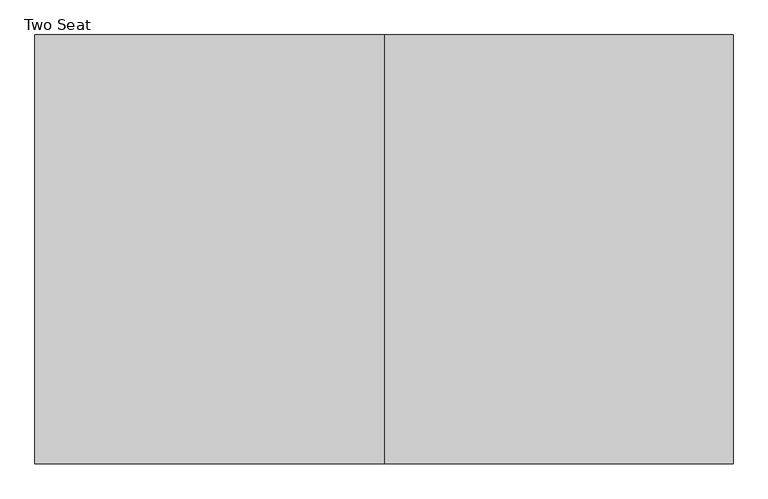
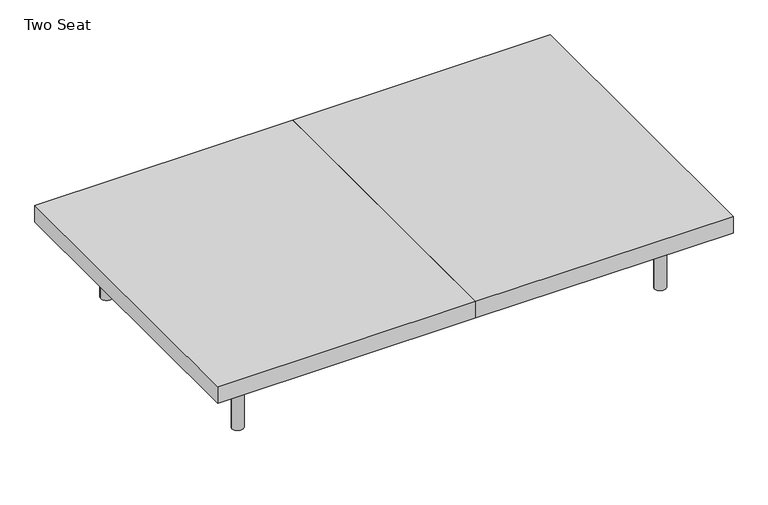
"""IFC4 building model written with IfcOpenShell, lengths in millimetres: furniture geometry, Coalesse_AM_Seating_LoungeChair_Sistema_LegBase_TwoSeat : Two Seat."""

from ifc_helpers import new_model, si_unit, point, frame, frame_2d, origin, origin_with_axes, place, context, project, spatial, polyline, circle_curve, trimmed, segment, composite_curve, outline, extrude, source, transform, mapped, element, save


def two_seat_d71338f1(model_context):
    return source(origin(), model_context, "Body", "SweptSolid", [
        extrude(outline(composite_curve([segment(trimmed(circle_curve(frame_2d((989.1765227, 335.9943389)), 6.096), [point((995.2725227, 335.9943389))], [point((983.0805227, 335.9943389))], False, "CARTESIAN"), True, "CONTINUOUS"), segment(trimmed(circle_curve(frame_2d((989.1765227, 335.9943389)), 6.096), [point((983.0805227, 335.9943389))], [point((995.2725227, 335.9943389))], False, "CARTESIAN"), True, "CONTINUOUS")], self_intersect=False)), origin_with_axes(), (0.0, 0.0, 1.0), 4.3662291),
        extrude(outline(composite_curve([segment(trimmed(circle_curve(frame_2d((989.1765227, -327.2630889)), 6.096), [point((995.2725227, -327.2630889))], [point((983.0805227, -327.2630889))], False, "CARTESIAN"), True, "CONTINUOUS"), segment(trimmed(circle_curve(frame_2d((989.1765227, -327.2630889)), 6.096), [point((983.0805227, -327.2630889))], [point((995.2725227, -327.2630889))], False, "CARTESIAN"), True, "CONTINUOUS")], self_intersect=False)), origin_with_axes(), (0.0, 0.0, 1.0), 4.3662291),
        extrude(outline(composite_curve([segment(polyline([(157.0399209, 1001.756375), (201.7356243, 1001.756375)]), True, "CONTINUOUS"), segment(trimmed(circle_curve(frame_2d((201.7356243, 998.708375)), 3.048), [point((201.7356243, 1001.756375))], [point((204.7836243, 998.708375))], False, "CARTESIAN"), True, "CONTINUOUS"), segment(polyline([(204.7836243, 998.708375), (204.7836243, 979.366199)]), True, "CONTINUOUS"), segment(trimmed(circle_curve(frame_2d((201.7356243, 979.366199)), 3.048), [point((204.7836243, 979.366199))], [point((201.7356243, 976.318199))], False, "CARTESIAN"), True, "CONTINUOUS"), segment(polyline([(201.7356243, 976.318199), (157.1249936, 976.318199)]), True, "CONTINUOUS"), segment(trimmed(circle_curve(frame_2d((157.1249936, 979.4512718)), 3.1330728), [point((157.1249936, 976.318199))], [point((153.9919209, 979.4512718))], False, "CARTESIAN"), True, "CONTINUOUS"), segment(polyline([(153.9919209, 979.4512718), (153.9919209, 998.708375)]), True, "CONTINUOUS"), segment(trimmed(circle_curve(frame_2d((157.0399209, 998.708375)), 3.048), [point((153.9919209, 998.708375))], [point((157.0399209, 1001.756375))], False, "CARTESIAN"), True, "CONTINUOUS")], self_intersect=False)), frame((0.0, 222.3519802, 0.0), z_axis=(0.0, 1.0, 0.0), x_axis=(0.0, 0.0, 1.0)), (0.0, 0.0, 1.0), 92.6273161),
        extrude(outline(composite_curve([segment(polyline([(157.0399209, 1001.756375), (201.7356243, 1001.756375)]), True, "CONTINUOUS"), segment(trimmed(circle_curve(frame_2d((201.7356243, 998.708375)), 3.048), [point((201.7356243, 1001.756375))], [point((204.7836243, 998.708375))], False, "CARTESIAN"), True, "CONTINUOUS"), segment(polyline([(204.7836243, 998.708375), (204.7836243, 979.366199)]), True, "CONTINUOUS"), segment(trimmed(circle_curve(frame_2d((201.7356243, 979.366199)), 3.048), [point((204.7836243, 979.366199))], [point((201.7356243, 976.318199))], False, "CARTESIAN"), True, "CONTINUOUS"), segment(polyline([(201.7356243, 976.318199), (157.1249936, 976.318199)]), True, "CONTINUOUS"), segment(trimmed(circle_curve(frame_2d((157.1249936, 979.4512718)), 3.1330728), [point((157.1249936, 976.318199))], [point((153.9919209, 979.4512718))], False, "CARTESIAN"), True, "CONTINUOUS"), segment(polyline([(153.9919209, 979.4512718), (153.9919209, 998.708375)]), True, "CONTINUOUS"), segment(trimmed(circle_curve(frame_2d((157.0399209, 998.708375)), 3.048), [point((153.9919209, 998.708375))], [point((157.0399209, 1001.756375))], False, "CARTESIAN"), True, "CONTINUOUS")], self_intersect=False)), frame((0.0, -314.9792963, 0.0), z_axis=(0.0, 1.0, 0.0), x_axis=(0.0, 0.0, 1.0)), (0.0, 0.0, 1.0), 92.6273161),
        extrude(outline(composite_curve([segment(trimmed(circle_curve(frame_2d((176.3356606, 966.5259944)), 3.048), [point((179.3836606, 966.5259944))], [point((176.3356606, 963.4779944))], False, "CARTESIAN"), True, "CONTINUOUS"), segment(polyline([(176.3356606, 963.4779944), (157.0399209, 963.4779944)]), True, "CONTINUOUS"), segment(trimmed(circle_curve(frame_2d((157.0399209, 966.5259944)), 3.048), [point((157.0399209, 963.4779944))], [point((153.9919209, 966.5259944))], False, "CARTESIAN"), True, "CONTINUOUS"), segment(polyline([(153.9919209, 966.5259944), (153.9919209, 1011.2135501)]), True, "CONTINUOUS"), segment(trimmed(circle_curve(frame_2d((157.056462, 1011.2135501)), 3.0645412), [point((153.9919209, 1011.2135501))], [point((157.056462, 1014.2780913))], False, "CARTESIAN"), True, "CONTINUOUS"), segment(polyline([(157.056462, 1014.2780913), (176.3356606, 1014.2780913)]), True, "CONTINUOUS"), segment(trimmed(circle_curve(frame_2d((176.3356606, 1011.2300913)), 3.048), [point((176.3356606, 1014.2780913))], [point((179.3836606, 1011.2300913))], False, "CARTESIAN"), True, "CONTINUOUS"), segment(polyline([(179.3836606, 1011.2300913), (179.3836606, 966.5259944)]), True, "CONTINUOUS")], self_intersect=False)), frame((0.0, -222.3519802, 0.0), z_axis=(0.0, 1.0, 0.0), x_axis=(0.0, 0.0, 1.0)), (0.0, 0.0, 1.0), 444.7039604),
        extrude(outline(composite_curve([segment(trimmed(circle_curve(frame_2d((989.1765227, 332.3095741)), 16.51), [point((1005.6865227, 332.3095741))], [point((972.6665227, 332.3095741))], False, "CARTESIAN"), True, "CONTINUOUS"), segment(trimmed(circle_curve(frame_2d((989.1765227, 332.3095741)), 16.51), [point((972.6665227, 332.3095741))], [point((1005.6865227, 332.3095741))], False, "CARTESIAN"), True, "CONTINUOUS")], self_intersect=False)), frame((0.0, 0.0, 4.3662291), z_axis=(0.0, 0.0, 1.0), x_axis=(1.0, 0.0, 0.0)), (0.0, 0.0, 1.0), 200.1037709),
        extrude(outline(composite_curve([segment(trimmed(circle_curve(frame_2d((988.7796477, -327.5470741)), 16.51), [point((1005.2896477, -327.5470741))], [point((972.2696477, -327.5470741))], False, "CARTESIAN"), True, "CONTINUOUS"), segment(trimmed(circle_curve(frame_2d((988.7796477, -327.5470741)), 16.51), [point((972.2696477, -327.5470741))], [point((1005.2896477, -327.5470741))], False, "CARTESIAN"), True, "CONTINUOUS")], self_intersect=False)), frame((0.0, 0.0, 4.3662291), z_axis=(0.0, 0.0, 1.0), x_axis=(1.0, 0.0, 0.0)), (0.0, 0.0, 1.0), 200.1037709),
        extrude(outline(polyline([(374.4965227, 459.4795619), (374.4965227, -461.2704381), (-374.8034773, -461.2704381), (-374.8034773, 459.4795619), (374.4965227, 459.4795619)])), frame((0.0, 0.0, 204.47), z_axis=(0.0, 0.0, 1.0), x_axis=(1.0, 0.0, 0.0)), (0.0, 0.0, 1.0), 51.0294654),
        extrude(outline(polyline([(1123.7965227, 459.4795619), (1123.7965227, -461.2704381), (374.4965227, -461.2704381), (374.4965227, 459.4795619), (1123.7965227, 459.4795619)])), frame((0.0, 0.0, 204.47), z_axis=(0.0, 0.0, 1.0), x_axis=(1.0, 0.0, 0.0)), (0.0, 0.0, 1.0), 51.0294654),
        extrude(outline(composite_curve([segment(trimmed(circle_curve(frame_2d((-240.1834773, 335.9943389)), 6.096), [point((-246.2794773, 335.9943389))], [point((-234.0874773, 335.9943389))], False, "CARTESIAN"), True, "CONTINUOUS"), segment(trimmed(circle_curve(frame_2d((-240.1834773, 335.9943389)), 6.096), [point((-234.0874773, 335.9943389))], [point((-246.2794773, 335.9943389))], False, "CARTESIAN"), True, "CONTINUOUS")], self_intersect=False)), origin_with_axes(), (0.0, 0.0, 1.0), 4.3662291),
        extrude(outline(composite_curve([segment(trimmed(circle_curve(frame_2d((-240.1834773, -327.2630889)), 6.096), [point((-246.2794773, -327.2630889))], [point((-234.0874773, -327.2630889))], False, "CARTESIAN"), True, "CONTINUOUS"), segment(trimmed(circle_curve(frame_2d((-240.1834773, -327.2630889)), 6.096), [point((-234.0874773, -327.2630889))], [point((-246.2794773, -327.2630889))], False, "CARTESIAN"), True, "CONTINUOUS")], self_intersect=False)), origin_with_axes(), (0.0, 0.0, 1.0), 4.3662291),
        extrude(outline(composite_curve([segment(trimmed(circle_curve(frame_2d((157.0399209, -249.7153296)), 3.048), [point((157.0399209, -252.7633296))], [point((153.9919209, -249.7153296))], False, "CARTESIAN"), True, "CONTINUOUS"), segment(polyline([(153.9919209, -249.7153296), (153.9919209, -230.4582264)]), True, "CONTINUOUS"), segment(trimmed(circle_curve(frame_2d((157.1249936, -230.4582264)), 3.1330728), [point((153.9919209, -230.4582264))], [point((157.1249936, -227.3251537))], False, "CARTESIAN"), True, "CONTINUOUS"), segment(polyline([(157.1249936, -227.3251537), (201.7356243, -227.3251537)]), True, "CONTINUOUS"), segment(trimmed(circle_curve(frame_2d((201.7356243, -230.3731537)), 3.048), [point((201.7356243, -227.3251537))], [point((204.7836243, -230.3731537))], False, "CARTESIAN"), True, "CONTINUOUS"), segment(polyline([(204.7836243, -230.3731537), (204.7836243, -249.7153296)]), True, "CONTINUOUS"), segment(trimmed(circle_curve(frame_2d((201.7356243, -249.7153296)), 3.048), [point((204.7836243, -249.7153296))], [point((201.7356243, -252.7633296))], False, "CARTESIAN"), True, "CONTINUOUS"), segment(polyline([(201.7356243, -252.7633296), (157.0399209, -252.7633296)]), True, "CONTINUOUS")], self_intersect=False)), frame((0.0, 222.3519802, 0.0), z_axis=(0.0, 1.0, 0.0), x_axis=(0.0, 0.0, 1.0)), (0.0, 0.0, 1.0), 92.6273161),
        extrude(outline(composite_curve([segment(trimmed(circle_curve(frame_2d((157.0399209, -249.7153296)), 3.048), [point((157.0399209, -252.7633296))], [point((153.9919209, -249.7153296))], False, "CARTESIAN"), True, "CONTINUOUS"), segment(polyline([(153.9919209, -249.7153296), (153.9919209, -230.4582264)]), True, "CONTINUOUS"), segment(trimmed(circle_curve(frame_2d((157.1249936, -230.4582264)), 3.1330728), [point((153.9919209, -230.4582264))], [point((157.1249936, -227.3251537))], False, "CARTESIAN"), True, "CONTINUOUS"), segment(polyline([(157.1249936, -227.3251537), (201.7356243, -227.3251537)]), True, "CONTINUOUS"), segment(trimmed(circle_curve(frame_2d((201.7356243, -230.3731537)), 3.048), [point((201.7356243, -227.3251537))], [point((204.7836243, -230.3731537))], False, "CARTESIAN"), True, "CONTINUOUS"), segment(polyline([(204.7836243, -230.3731537), (204.7836243, -249.7153296)]), True, "CONTINUOUS"), segment(trimmed(circle_curve(frame_2d((201.7356243, -249.7153296)), 3.048), [point((204.7836243, -249.7153296))], [point((201.7356243, -252.7633296))], False, "CARTESIAN"), True, "CONTINUOUS"), segment(polyline([(201.7356243, -252.7633296), (157.0399209, -252.7633296)]), True, "CONTINUOUS")], self_intersect=False)), frame((0.0, -314.9792963, 0.0), z_axis=(0.0, 1.0, 0.0), x_axis=(0.0, 0.0, 1.0)), (0.0, 0.0, 1.0), 92.6273161),
        extrude(outline(composite_curve([segment(polyline([(179.3836606, -217.532949), (179.3836606, -262.2370459)]), True, "CONTINUOUS"), segment(trimmed(circle_curve(frame_2d((176.3356606, -262.2370459)), 3.048), [point((179.3836606, -262.2370459))], [point((176.3356606, -265.2850459))], False, "CARTESIAN"), True, "CONTINUOUS"), segment(polyline([(176.3356606, -265.2850459), (157.056462, -265.2850459)]), True, "CONTINUOUS"), segment(trimmed(circle_curve(frame_2d((157.056462, -262.2205047)), 3.0645412), [point((157.056462, -265.2850459))], [point((153.9919209, -262.2205047))], False, "CARTESIAN"), True, "CONTINUOUS"), segment(polyline([(153.9919209, -262.2205047), (153.9919209, -217.532949)]), True, "CONTINUOUS"), segment(trimmed(circle_curve(frame_2d((157.0399209, -217.532949)), 3.048), [point((153.9919209, -217.532949))], [point((157.0399209, -214.484949))], False, "CARTESIAN"), True, "CONTINUOUS"), segment(polyline([(157.0399209, -214.484949), (176.3356606, -214.484949)]), True, "CONTINUOUS"), segment(trimmed(circle_curve(frame_2d((176.3356606, -217.532949)), 3.048), [point((176.3356606, -214.484949))], [point((179.3836606, -217.532949))], False, "CARTESIAN"), True, "CONTINUOUS")], self_intersect=False)), frame((0.0, -222.3519802, 0.0), z_axis=(0.0, 1.0, 0.0), x_axis=(0.0, 0.0, 1.0)), (0.0, 0.0, 1.0), 444.7039604),
        extrude(outline(composite_curve([segment(trimmed(circle_curve(frame_2d((-240.1834773, 332.3095741)), 16.51), [point((-256.6934773, 332.3095741))], [point((-223.6734773, 332.3095741))], False, "CARTESIAN"), True, "CONTINUOUS"), segment(trimmed(circle_curve(frame_2d((-240.1834773, 332.3095741)), 16.51), [point((-223.6734773, 332.3095741))], [point((-256.6934773, 332.3095741))], False, "CARTESIAN"), True, "CONTINUOUS")], self_intersect=False)), frame((0.0, 0.0, 4.3662291), z_axis=(0.0, 0.0, 1.0), x_axis=(1.0, 0.0, 0.0)), (0.0, 0.0, 1.0), 200.1037709),
        extrude(outline(composite_curve([segment(trimmed(circle_curve(frame_2d((-239.7866023, -327.5470741)), 16.51), [point((-256.2966023, -327.5470741))], [point((-223.2766023, -327.5470741))], False, "CARTESIAN"), True, "CONTINUOUS"), segment(trimmed(circle_curve(frame_2d((-239.7866023, -327.5470741)), 16.51), [point((-223.2766023, -327.5470741))], [point((-256.2966023, -327.5470741))], False, "CARTESIAN"), True, "CONTINUOUS")], self_intersect=False)), frame((0.0, 0.0, 4.3662291), z_axis=(0.0, 0.0, 1.0), x_axis=(1.0, 0.0, 0.0)), (0.0, 0.0, 1.0), 200.1037709),
    ])


if __name__ == "__main__":
    model = new_model("IFC4")
    model_context = context("Model", 3, world=origin())
    ifc_project = project(units=[si_unit("LENGTHUNIT", "METRE", prefix="MILLI")], contexts=[model_context])
    site = spatial("IfcSite", under=ifc_project)
    building = spatial("IfcBuilding", under=site)
    placement = place(None, origin())
    two_seat_shape = two_seat_d71338f1(model_context)
    element("IfcFurniture", 1, ObjectType="Coalesse_AM_Seating_LoungeChair_Sistema_LegBase_TwoSeat : Two Seat", at=placement, inside=building, context=model_context, shape_type="MappedRepresentation", body=[
        mapped(two_seat_shape, transform((0.0, 0.0, 0.0), x_axis=(1.0, 0.0, 0.0), y_axis=(0.0, 1.0, 0.0), z_axis=(0.0, 0.0, 1.0))),
    ])
    save(model, "model.ifc")
